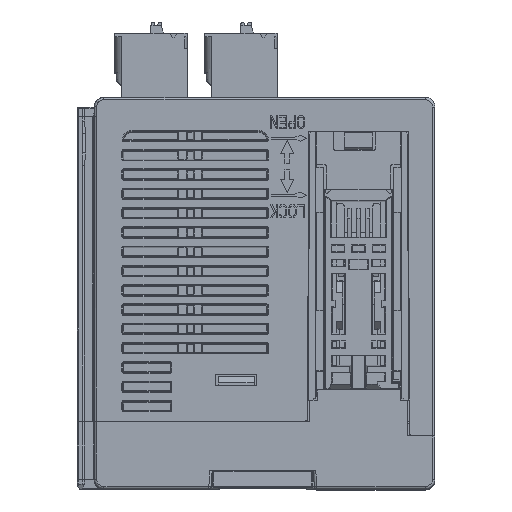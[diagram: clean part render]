
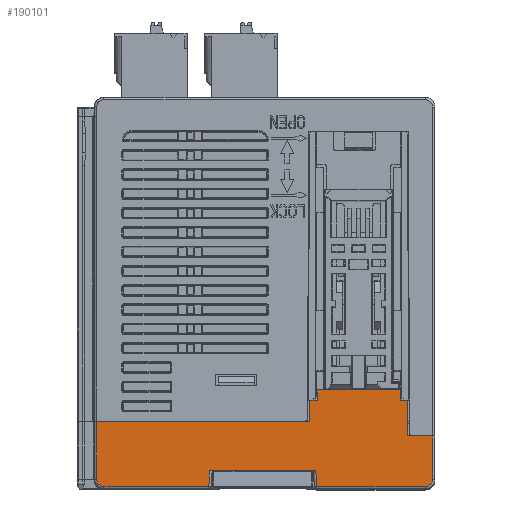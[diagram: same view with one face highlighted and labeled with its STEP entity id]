
A CAD part, top view. The second image highlights one B-rep face of the part: STEP entity #190101.
In plain terms, the highlighted planar face has unit normal (0, 0, 1).
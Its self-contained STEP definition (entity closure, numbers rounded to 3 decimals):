
#40541=DIRECTION('',(-1.,0.,0.));
#40542=VECTOR('',#40541,22.745);
#40543=CARTESIAN_POINT('',(-11.673,12.8,56.9));
#40544=LINE('',#40543,#40542);
#49107=DIRECTION('',(0.,-1.,0.));
#49108=VECTOR('',#49107,12.);
#49109=CARTESIAN_POINT('',(-34.418,12.8,56.9));
#49110=LINE('',#49109,#49108);
#49121=DIRECTION('',(-1.,0.,0.));
#49122=VECTOR('',#49121,12.084);
#49123=CARTESIAN_POINT('',(6.042,2.6,56.9));
#49124=LINE('',#49123,#49122);
#49128=DIRECTION('',(-1.,0.,0.));
#49129=VECTOR('',#49128,0.857);
#49130=CARTESIAN_POINT('',(-10.144,2.6,56.9));
#49131=LINE('',#49130,#49129);
#49135=DIRECTION('',(-0.052,-0.999,0.));
#49136=VECTOR('',#49135,3.305);
#49137=CARTESIAN_POINT('',(-11.001,2.6,56.9));
#49138=LINE('',#49137,#49136);
#49142=CARTESIAN_POINT('',(-32.918,0.8,
56.9));
#49143=DIRECTION('',(0.,0.,-1.));
#49144=DIRECTION('',(0.,-1.,0.));
#49145=AXIS2_PLACEMENT_3D('',#49142,#49143,#49144);
#49150=DIRECTION('',(0.,-1.,0.));
#49151=VECTOR('',#49150,0.024);
#49152=CARTESIAN_POINT('',(-11.673,12.8,56.9));
#49153=LINE('',#49152,#49151);
#49157=DIRECTION('',(0.009,1.,0.));
#49158=VECTOR('',#49157,4.4);
#49159=CARTESIAN_POINT('',(9.71,12.8,56.9));
#49160=LINE('',#49159,#49158);
#49164=DIRECTION('',(1.,0.,0.));
#49165=VECTOR('',#49164,1.551);
#49166=CARTESIAN_POINT('',(9.749,17.2,56.9));
#49167=LINE('',#49166,#49165);
#49171=DIRECTION('',(0.052,0.999,0.));
#49172=VECTOR('',#49171,2.153);
#49173=CARTESIAN_POINT('',(11.3,17.2,56.9));
#49174=LINE('',#49173,#49172);
#49178=DIRECTION('',(0.052,-0.999,0.));
#49179=VECTOR('',#49178,2.153);
#49180=CARTESIAN_POINT('',(28.487,19.35,56.9));
#49181=LINE('',#49180,#49179);
#49185=DIRECTION('',(1.,0.,0.));
#49186=VECTOR('',#49185,1.351);
#49187=CARTESIAN_POINT('',(28.6,17.2,56.9));
#49188=LINE('',#49187,#49186);
#49192=DIRECTION('',(0.009,-1.,0.));
#49193=VECTOR('',#49192,7.4);
#49194=CARTESIAN_POINT('',(29.951,17.2,56.9));
#49195=LINE('',#49194,#49193);
#49199=DIRECTION('',(1.,0.,0.));
#49200=VECTOR('',#49199,5.184);
#49201=CARTESIAN_POINT('',(30.016,9.8,56.9));
#49202=LINE('',#49201,#49200);
#49206=CARTESIAN_POINT('',(33.7,0.8,56.9));
#49207=DIRECTION('',(0.,0.,-1.));
#49208=DIRECTION('',(1.,0.,0.));
#49209=AXIS2_PLACEMENT_3D('',#49206,#49207,#49208);
#49214=DIRECTION('',(-0.052,0.999,0.));
#49215=VECTOR('',#49214,3.305);
#49216=CARTESIAN_POINT('',(11.174,-0.7,56.9));
#49217=LINE('',#49216,#49215);
#49221=DIRECTION('',(-1.,0.,0.));
#49222=VECTOR('',#49221,0.857);
#49223=CARTESIAN_POINT('',(11.001,2.6,56.9));
#49224=LINE('',#49223,#49222);
#49228=DIRECTION('',(1.,0.,0.));
#49229=VECTOR('',#49228,4.102);
#49230=CARTESIAN_POINT('',(6.042,2.6,56.9));
#49231=LINE('',#49230,#49229);
#49235=DIRECTION('',(1.,0.,0.));
#49236=VECTOR('',#49235,4.102);
#49237=CARTESIAN_POINT('',(-10.144,2.6,56.9));
#49238=LINE('',#49237,#49236);
#49803=DIRECTION('',(0.,1.,0.));
#49804=VECTOR('',#49803,9.);
#49805=CARTESIAN_POINT('',(35.2,0.8,56.9));
#49806=LINE('',#49805,#49804);
#49834=DIRECTION('',(1.,0.,0.));
#49835=VECTOR('',#49834,22.526);
#49836=CARTESIAN_POINT('',(11.174,-0.7,56.9));
#49837=LINE('',#49836,#49835);
#50507=DIRECTION('',(-1.,0.,0.));
#50508=VECTOR('',#50507,17.075);
#50509=CARTESIAN_POINT('',(28.487,19.35,56.9));
#50510=LINE('',#50509,#50508);
#50617=DIRECTION('',(-1.,0.,0.));
#50618=VECTOR('',#50617,8.971);
#50619=CARTESIAN_POINT('',(9.71,12.8,56.9));
#50620=LINE('',#50619,#50618);
#50631=DIRECTION('',(0.,-1.,0.));
#50632=VECTOR('',#50631,0.024);
#50633=CARTESIAN_POINT('',(0.74,12.8,56.9));
#50634=LINE('',#50633,#50632);
#50652=DIRECTION('',(-1.,0.,0.));
#50653=VECTOR('',#50652,12.413);
#50654=CARTESIAN_POINT('',(0.74,12.776,56.9));
#50655=LINE('',#50654,#50653);
#51310=DIRECTION('',(1.,0.,0.));
#51311=VECTOR('',#51310,21.745);
#51312=CARTESIAN_POINT('',(-32.918,-0.7,
56.9));
#51313=LINE('',#51312,#51311);
#125409=CARTESIAN_POINT('',(0.74,12.8,56.9));
#125411=VERTEX_POINT('',#125409);
#125428=CARTESIAN_POINT('',(9.71,12.8,56.9));
#125429=VERTEX_POINT('',#125428);
#125461=CARTESIAN_POINT('',(-11.673,12.8,56.9));
#125462=VERTEX_POINT('',#125461);
#125463=CARTESIAN_POINT('',(-34.418,12.8,56.9));
#125464=VERTEX_POINT('',#125463);
#125541=CARTESIAN_POINT('',(0.74,12.776,56.9));
#125542=VERTEX_POINT('',#125541);
#125543=CARTESIAN_POINT('',(-11.673,12.776,56.9));
#125544=VERTEX_POINT('',#125543);
#125545=CARTESIAN_POINT('',(6.042,2.6,56.9));
#125546=CARTESIAN_POINT('',(10.144,2.6,56.9));
#125547=VERTEX_POINT('',#125545);
#125548=VERTEX_POINT('',#125546);
#125549=CARTESIAN_POINT('',(-6.042,2.6,56.9));
#125550=VERTEX_POINT('',#125549);
#125551=CARTESIAN_POINT('',(-10.144,2.6,56.9));
#125552=VERTEX_POINT('',#125551);
#125553=CARTESIAN_POINT('',(-11.001,2.6,56.9));
#125554=VERTEX_POINT('',#125553);
#125555=CARTESIAN_POINT('',(-11.174,-0.7,56.9));
#125556=VERTEX_POINT('',#125555);
#125557=CARTESIAN_POINT('',(-32.918,-0.7,
56.9));
#125558=VERTEX_POINT('',#125557);
#125559=CARTESIAN_POINT('',(-34.418,0.8,
56.9));
#125560=VERTEX_POINT('',#125559);
#125561=CARTESIAN_POINT('',(9.749,17.2,56.9));
#125562=VERTEX_POINT('',#125561);
#125563=CARTESIAN_POINT('',(11.3,17.2,56.9));
#125564=VERTEX_POINT('',#125563);
#125565=CARTESIAN_POINT('',(11.413,19.35,56.9));
#125566=VERTEX_POINT('',#125565);
#125567=CARTESIAN_POINT('',(28.487,19.35,56.9));
#125568=VERTEX_POINT('',#125567);
#125569=CARTESIAN_POINT('',(28.6,17.2,56.9));
#125570=VERTEX_POINT('',#125569);
#125571=CARTESIAN_POINT('',(29.951,17.2,56.9));
#125572=VERTEX_POINT('',#125571);
#125573=CARTESIAN_POINT('',(30.016,9.8,56.9));
#125574=VERTEX_POINT('',#125573);
#125575=CARTESIAN_POINT('',(35.2,9.8,56.9));
#125576=VERTEX_POINT('',#125575);
#125577=CARTESIAN_POINT('',(35.2,0.8,56.9));
#125578=VERTEX_POINT('',#125577);
#125579=CARTESIAN_POINT('',(33.7,-0.7,56.9));
#125580=VERTEX_POINT('',#125579);
#125581=CARTESIAN_POINT('',(11.174,-0.7,56.9));
#125582=VERTEX_POINT('',#125581);
#125583=CARTESIAN_POINT('',(11.001,2.6,56.9));
#125584=VERTEX_POINT('',#125583);
#190044=CARTESIAN_POINT('',(35.7,0.,56.9));
#190045=DIRECTION('',(0.,0.,1.));
#190046=DIRECTION('',(-1.,0.,0.));
#190047=AXIS2_PLACEMENT_3D('',#190044,#190045,#190046);
#190048=PLANE('',#190047);
#190050=ORIENTED_EDGE('',*,*,#190049,.F.);
#190052=ORIENTED_EDGE('',*,*,#190051,.T.);
#190054=ORIENTED_EDGE('',*,*,#190053,.F.);
#190056=ORIENTED_EDGE('',*,*,#190055,.T.);
#190058=ORIENTED_EDGE('',*,*,#190057,.T.);
#190060=ORIENTED_EDGE('',*,*,#190059,.F.);
#190062=ORIENTED_EDGE('',*,*,#190061,.T.);
#190063=ORIENTED_EDGE('',*,*,#190024,.F.);
#190064=ORIENTED_EDGE('',*,*,#180808,.F.);
#190066=ORIENTED_EDGE('',*,*,#190065,.T.);
#190068=ORIENTED_EDGE('',*,*,#190067,.F.);
#190070=ORIENTED_EDGE('',*,*,#190069,.F.);
#190072=ORIENTED_EDGE('',*,*,#190071,.F.);
#190074=ORIENTED_EDGE('',*,*,#190073,.T.);
#190076=ORIENTED_EDGE('',*,*,#190075,.T.);
#190078=ORIENTED_EDGE('',*,*,#190077,.T.);
#190080=ORIENTED_EDGE('',*,*,#190079,.F.);
#190082=ORIENTED_EDGE('',*,*,#190081,.T.);
#190084=ORIENTED_EDGE('',*,*,#190083,.T.);
#190086=ORIENTED_EDGE('',*,*,#190085,.T.);
#190088=ORIENTED_EDGE('',*,*,#190087,.T.);
#190090=ORIENTED_EDGE('',*,*,#190089,.F.);
#190092=ORIENTED_EDGE('',*,*,#190091,.T.);
#190094=ORIENTED_EDGE('',*,*,#190093,.F.);
#190096=ORIENTED_EDGE('',*,*,#190095,.T.);
#190098=ORIENTED_EDGE('',*,*,#190097,.T.);
#190099=EDGE_LOOP('',(#190050,#190052,#190054,#190056,#190058,#190060,#190062,
#190063,#190064,#190066,#190068,#190070,#190072,#190074,#190076,#190078,#190080,
#190082,#190084,#190086,#190088,#190090,#190092,#190094,#190096,#190098));
#190100=FACE_OUTER_BOUND('',#190099,.F.);
#190101=ADVANCED_FACE('',(#190100),#190048,.T.);
#49146=CIRCLE('',#49145,1.5);
#49210=CIRCLE('',#49209,1.5);
#180808=EDGE_CURVE('',#125462,#125464,#40544,.T.);
#190024=EDGE_CURVE('',#125464,#125560,#49110,.T.);
#190049=EDGE_CURVE('',#125547,#125548,#49231,.T.);
#190051=EDGE_CURVE('',#125547,#125550,#49124,.T.);
#190053=EDGE_CURVE('',#125552,#125550,#49238,.T.);
#190055=EDGE_CURVE('',#125552,#125554,#49131,.T.);
#190057=EDGE_CURVE('',#125554,#125556,#49138,.T.);
#190059=EDGE_CURVE('',#125558,#125556,#51313,.T.);
#190061=EDGE_CURVE('',#125558,#125560,#49146,.T.);
#190065=EDGE_CURVE('',#125462,#125544,#49153,.T.);
#190067=EDGE_CURVE('',#125542,#125544,#50655,.T.);
#190069=EDGE_CURVE('',#125411,#125542,#50634,.T.);
#190071=EDGE_CURVE('',#125429,#125411,#50620,.T.);
#190073=EDGE_CURVE('',#125429,#125562,#49160,.T.);
#190075=EDGE_CURVE('',#125562,#125564,#49167,.T.);
#190077=EDGE_CURVE('',#125564,#125566,#49174,.T.);
#190079=EDGE_CURVE('',#125568,#125566,#50510,.T.);
#190081=EDGE_CURVE('',#125568,#125570,#49181,.T.);
#190083=EDGE_CURVE('',#125570,#125572,#49188,.T.);
#190085=EDGE_CURVE('',#125572,#125574,#49195,.T.);
#190087=EDGE_CURVE('',#125574,#125576,#49202,.T.);
#190089=EDGE_CURVE('',#125578,#125576,#49806,.T.);
#190091=EDGE_CURVE('',#125578,#125580,#49210,.T.);
#190093=EDGE_CURVE('',#125582,#125580,#49837,.T.);
#190095=EDGE_CURVE('',#125582,#125584,#49217,.T.);
#190097=EDGE_CURVE('',#125584,#125548,#49224,.T.);
